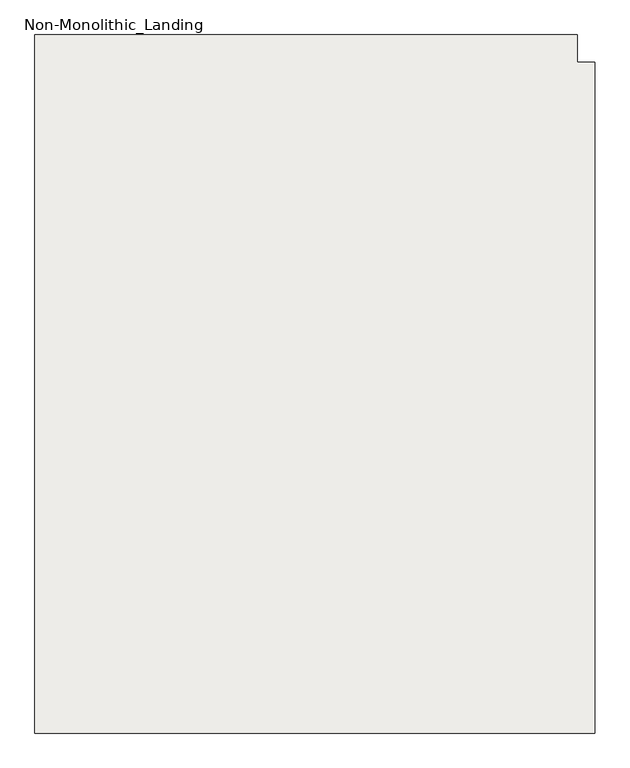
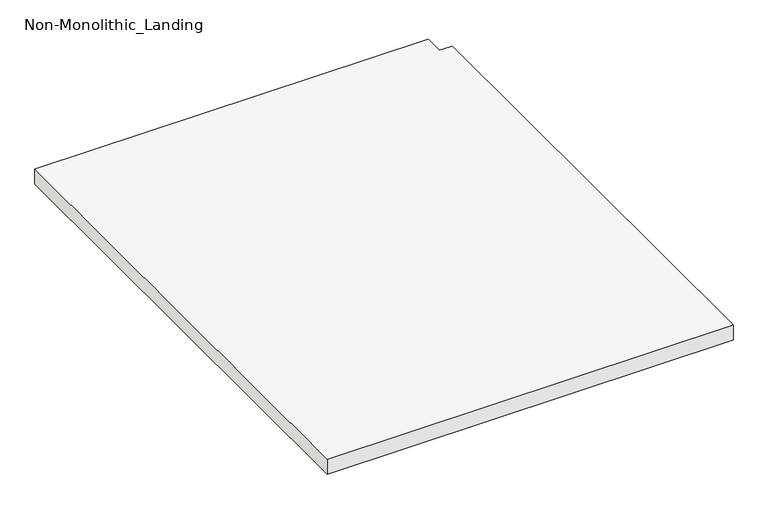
"""IFC4 building model written with IfcOpenShell, lengths in millimetres: slab geometry, Non-Monolithic_Landing."""

from ifc_helpers import new_model, si_unit, frame, origin, place, context, project, spatial, polyline, outline, extrude, source, transform, mapped, element, save


def non_monolithic_landing_0c23cef9(model_context):
    return source(origin(), model_context, "Body", "SweptSolid", [
        extrude(outline(polyline([(-4849.2057633, -1485.0053409), (-4849.2057633, -1535.0053409), (-4816.9053759, -1535.0053409), (-4816.9053759, -2772.5053409), (-5849.2057633, -2772.5053409), (-5849.2057633, -1485.0053409), (-4849.2057633, -1485.0053409)])), frame((0.0, 0.0, 3710.0), z_axis=(0.0, 0.0, 1.0), x_axis=(1.0, 0.0, 0.0)), (0.0, 0.0, 1.0), 40.0),
    ])


if __name__ == "__main__":
    model = new_model("IFC4")
    model_context = context("Model", 3, world=origin())
    ifc_project = project(units=[si_unit("LENGTHUNIT", "METRE", prefix="MILLI")], contexts=[model_context])
    site = spatial("IfcSite", under=ifc_project)
    building = spatial("IfcBuilding", under=site)
    placement = place(None, origin())
    non_monolithic_landing_shape = non_monolithic_landing_0c23cef9(model_context)
    element("IfcSlab", 1, ObjectType="Non-Monolithic_Landing", at=placement, inside=building, context=model_context, shape_type="MappedRepresentation", body=[
        mapped(non_monolithic_landing_shape, transform((0.0, 0.0, 0.0), x_axis=(1.0, 0.0, 0.0), y_axis=(0.0, 1.0, 0.0), z_axis=(0.0, 0.0, 1.0))),
    ])
    save(model, "model.ifc")
